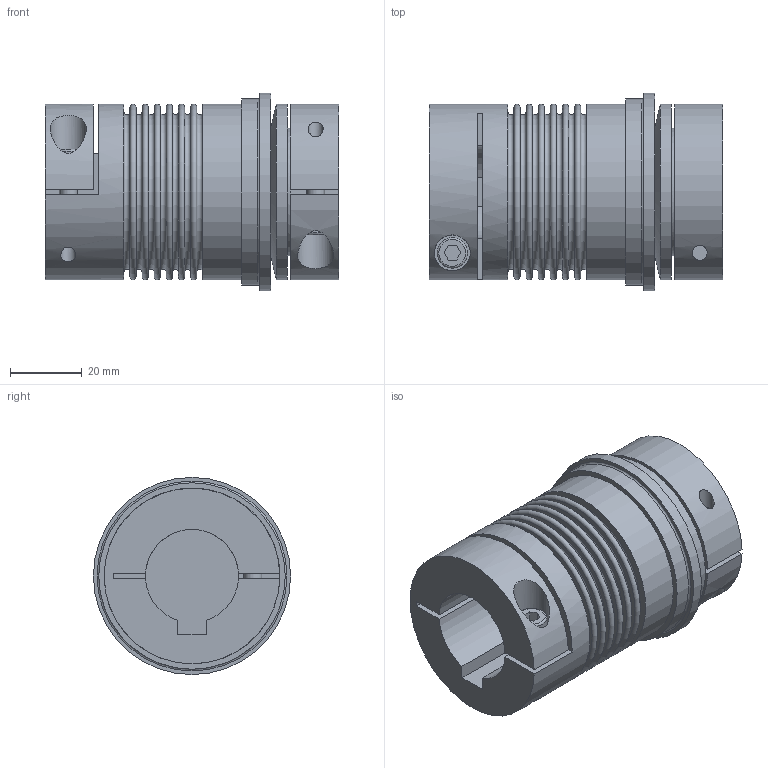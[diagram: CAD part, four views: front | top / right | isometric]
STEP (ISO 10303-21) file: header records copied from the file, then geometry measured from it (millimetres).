
FILE_DESCRIPTION(/* description */ ('STEP AP214'),/* implementation_level */ '2;1');
FILE_NAME(/* name */ 'C:\Diequa Files\DieQua Coupling\TB2\STP\TB2.15.82.WDG..#.#.stp',/* time_stamp */ '2019-04-26T10:38:05-05:00',/* author */ ('DiequaCAD'),/* organization */ (''),/* preprocessor_version */ 'ST-DEVELOPER v18',/* originating_system */ 'Autodesk Inventor 2020',/* authorisation */ ' ');
FILE_SCHEMA (('AUTOMOTIVE_DESIGN { 1 0 10303 214 3 1 1 }'));
Length unit declared in the file: millimetre
Products named in the file (1): TB2.15.82.WDG..#.#
Bounding box: 82 x 55 x 55 mm (x, y, z)
Volume: 123187.7 mm3; surface area: 32456.1 mm2
Topology: 1 solids, 1 shells, 98 faces, 232 edges, 164 vertices
Faces by surface type: plane 61, cylinder 20, torus 16, cone 1
Full cylindrical faces by diameter (mm): 4.2 x2, 5 x2, 5.5 x2, 8.5 x2, 10 x2, 35.5 x1, 49 x3, 52 x1, 55 x1
Entity records: 3121 total; most frequent: CARTESIAN_POINT 647, DIRECTION 547, ORIENTED_EDGE 464, EDGE_CURVE 232, AXIS2_PLACEMENT_3D 222, VERTEX_POINT 164, EDGE_LOOP 130, CIRCLE 123
